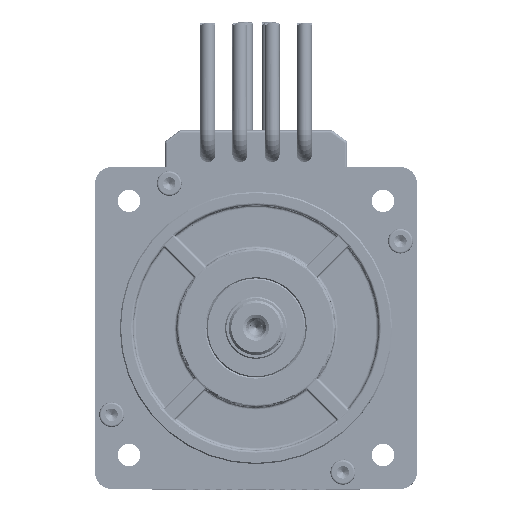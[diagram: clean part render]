
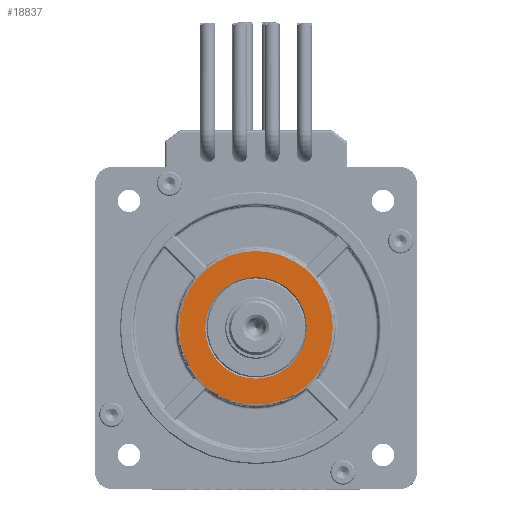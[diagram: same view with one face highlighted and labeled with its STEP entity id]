
A CAD part, top view. The second image highlights one B-rep face of the part: STEP entity #18837.
In plain terms, the highlighted planar face has unit normal (0, 0, 1).
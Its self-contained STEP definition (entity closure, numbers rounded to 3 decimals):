
#1114 = CARTESIAN_POINT ( 'NONE',  ( 0., 20.5, 112. ) ) ;
#4918 = FACE_OUTER_BOUND ( 'NONE', #95569, .T. ) ;
#11987 = EDGE_LOOP ( 'NONE', ( #95106, #32318 ) ) ;
#18837 = ADVANCED_FACE ( 'NONE', ( #4918, #71274 ), #124447, .F. ) ;
#26000 = DIRECTION ( 'NONE',  ( 0., 0., 1. ) ) ;
#27619 = AXIS2_PLACEMENT_3D ( 'NONE', #64814, #26000, #106233 ) ;
#30471 = CARTESIAN_POINT ( 'NONE',  ( 0., -31., 112. ) ) ;
#32318 = ORIENTED_EDGE ( 'NONE', *, *, #129579, .T. ) ;
#34913 = DIRECTION ( 'NONE',  ( 0., -1., 0. ) ) ;
#37268 = EDGE_CURVE ( 'NONE', #121104, #81087, #90123, .T. ) ;
#37915 = CIRCLE ( 'NONE', #68218, 31. ) ;
#44332 = ORIENTED_EDGE ( 'NONE', *, *, #103750, .T. ) ;
#44921 = CARTESIAN_POINT ( 'NONE',  ( 0., -20.5, 112. ) ) ;
#47610 = CARTESIAN_POINT ( 'NONE',  ( 0., 0., 112. ) ) ;
#48592 = VERTEX_POINT ( 'NONE', #44921 ) ;
#48900 = DIRECTION ( 'NONE',  ( 0., 0., 1. ) ) ;
#54471 = AXIS2_PLACEMENT_3D ( 'NONE', #64897, #55197, #34913 ) ;
#55197 = DIRECTION ( 'NONE',  ( 0., 0., -1. ) ) ;
#59449 = AXIS2_PLACEMENT_3D ( 'NONE', #114732, #93135, #116921 ) ;
#64814 = CARTESIAN_POINT ( 'NONE',  ( 0., 0., 112. ) ) ;
#64897 = CARTESIAN_POINT ( 'NONE',  ( 0., 0., 112. ) ) ;
#67607 = VERTEX_POINT ( 'NONE', #1114 ) ;
#68218 = AXIS2_PLACEMENT_3D ( 'NONE', #47610, #48900, #107985 ) ;
#71274 = FACE_BOUND ( 'NONE', #11987, .T. ) ;
#78214 = EDGE_CURVE ( 'NONE', #67607, #48592, #81576, .T. ) ;
#81087 = VERTEX_POINT ( 'NONE', #30471 ) ;
#81576 = CIRCLE ( 'NONE', #121423, 20.5 ) ;
#90123 = CIRCLE ( 'NONE', #27619, 31. ) ;
#93135 = DIRECTION ( 'NONE',  ( 0., 0., -1. ) ) ;
#93626 = DIRECTION ( 'NONE',  ( 0., 0., -1. ) ) ;
#95106 = ORIENTED_EDGE ( 'NONE', *, *, #78214, .T. ) ;
#95569 = EDGE_LOOP ( 'NONE', ( #44332, #112511 ) ) ;
#101294 = CARTESIAN_POINT ( 'NONE',  ( 0., 31., 112. ) ) ;
#103750 = EDGE_CURVE ( 'NONE', #81087, #121104, #37915, .T. ) ;
#104187 = DIRECTION ( 'NONE',  ( 0., -1., 0. ) ) ;
#106233 = DIRECTION ( 'NONE',  ( 0., -1., 0. ) ) ;
#107985 = DIRECTION ( 'NONE',  ( 0., -1., 0. ) ) ;
#112340 = CIRCLE ( 'NONE', #54471, 20.5 ) ;
#112511 = ORIENTED_EDGE ( 'NONE', *, *, #37268, .T. ) ;
#114732 = CARTESIAN_POINT ( 'NONE',  ( 58.113, -58.113, 112. ) ) ;
#116921 = DIRECTION ( 'NONE',  ( 0., -1., 0. ) ) ;
#121104 = VERTEX_POINT ( 'NONE', #101294 ) ;
#121423 = AXIS2_PLACEMENT_3D ( 'NONE', #124087, #93626, #104187 ) ;
#124087 = CARTESIAN_POINT ( 'NONE',  ( 0., 0., 112. ) ) ;
#124447 = PLANE ( 'NONE',  #59449 ) ;
#129579 = EDGE_CURVE ( 'NONE', #48592, #67607, #112340, .T. ) ;
